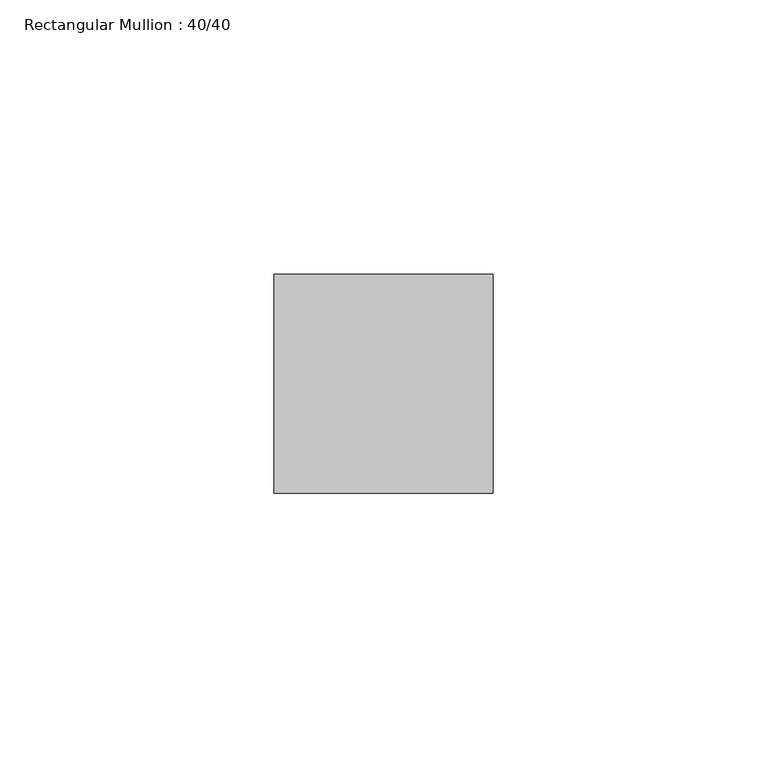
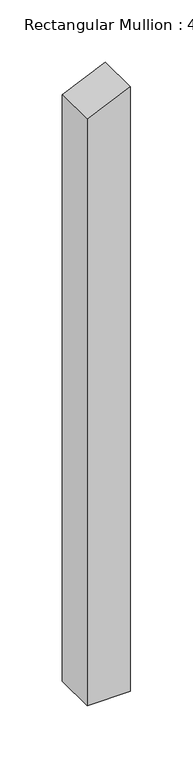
"""IFC4 building model written with IfcOpenShell, lengths in millimetres: member geometry, Rectangular Mullion : 40/40."""

import ifcopenshell
import ifcopenshell.guid

model = None  # the IFC model being written
_history = None  # IfcOwnerHistory: only IFC2X3 demands one
_inside = {}  # id of a spatial element -> (the spatial element, [elements in it])
_under = {}  # id of a project, library or spatial element -> (it, [spatial elements below it])
_declared = {}  # id of a project -> (the project, [libraries it declares])
_typed = {}  # id of a type object -> (the type object, [elements of that type])
_made_of = {}  # id of a material, layer set ... -> (it, [elements and type objects made of it])


def new_model(schema):
    """Start an empty IFC model of exactly this schema.

    Asked for "IFC4X3", IfcOpenShell would pick the latest addendum, in which some entities
    have other attributes; the version numbers below select the first issue.
    IFC2X3 requires an IfcOwnerHistory on every rooted entity: one is made here for all.
    """
    global model, _history
    if schema == "IFC4X3":
        model = ifcopenshell.file(schema_version=(4, 3, 0, 0))
    else:
        model = ifcopenshell.file(schema=schema)
    _inside.clear()
    _under.clear()
    _declared.clear()
    _typed.clear()
    _made_of.clear()
    _history = None
    if model.schema == "IFC2X3":
        org = make("IfcOrganization", Name="unknown")
        user = make(
            "IfcPersonAndOrganization",
            ThePerson=make("IfcPerson", FamilyName="unknown"),
            TheOrganization=org,
        )
        app = make(
            "IfcApplication",
            ApplicationDeveloper=org,
            Version="unknown",
            ApplicationFullName="unknown",
            ApplicationIdentifier="unknown",
        )
        _history = make(
            "IfcOwnerHistory",
            OwningUser=user,
            OwningApplication=app,
            ChangeAction="ADDED",
            CreationDate=0,
        )
    return model


def make(cls, **values):
    """One entity of the class cls with the attributes given. An attribute that is None is left unset."""
    return model.create_entity(
        cls, **{name: value for name, value in values.items() if value is not None}
    )


def rooted(cls, **values):
    """An entity with a GlobalId (a new one), such as an element, a storey or a relation."""
    return make(cls, GlobalId=ifcopenshell.guid.new(), OwnerHistory=_history, **values)


def si_unit(unit_type, name, prefix=None):
    """IfcSIUnit, for example si_unit("LENGTHUNIT", "METRE", prefix="MILLI")."""
    return make("IfcSIUnit", UnitType=unit_type, Prefix=prefix, Name=name)


def assignment(units):
    """IfcUnitAssignment: the units of a project."""
    return None if units is None else make("IfcUnitAssignment", Units=units)


def point(xyz):
    """IfcCartesianPoint."""
    return None if xyz is None else make("IfcCartesianPoint", Coordinates=xyz)


def direction(xyz):
    """IfcDirection."""
    return None if xyz is None else make("IfcDirection", DirectionRatios=xyz)


def frame(location, z_axis=None, x_axis=None):
    """IfcAxis2Placement3D, a coordinate frame: its origin and axes. An axis left out is left unset."""
    return make(
        "IfcAxis2Placement3D",
        Location=point(location),
        Axis=direction(z_axis),
        RefDirection=direction(x_axis),
    )


def origin():
    """The frame at (0, 0, 0) with its axes left unset."""
    return frame((0.0, 0.0, 0.0))


def place(relative_to, where):
    """IfcLocalPlacement: puts the frame where relative to a parent placement (None: the world)."""
    return make(
        "IfcLocalPlacement", PlacementRelTo=relative_to, RelativePlacement=where
    )


def context(
    kind, dimensions, precision=None, world=None, true_north=None, identifier=None
):
    """IfcGeometricRepresentationContext, for example the 3D "Model" context."""
    return make(
        "IfcGeometricRepresentationContext",
        ContextIdentifier=identifier,
        ContextType=kind,
        CoordinateSpaceDimension=dimensions,
        Precision=precision,
        WorldCoordinateSystem=world,
        TrueNorth=true_north,
    )


def project(units=None, contexts=None):
    """IfcProject with its units and contexts."""
    return rooted(
        "IfcProject",
        Name="project",
        RepresentationContexts=contexts,
        UnitsInContext=assignment(units),
    )


def spatial(cls, under=None, at=None, **own):
    """A site, building, storey or space (cls), placed at a placement, below another one or the project."""
    s = rooted(cls, ObjectPlacement=at, **own)
    if under is not None:
        _under.setdefault(under.id(), (under, []))[1].append(s)
    return s


def polyline(points):
    """IfcPolyline through the points."""
    return make("IfcPolyline", Points=[point(p) for p in points])


def outline(outer, holes=None, kind="AREA"):
    """IfcArbitraryClosedProfileDef: a profile drawn as a closed curve; with holes, ...WithVoids."""
    if holes is None:
        return make("IfcArbitraryClosedProfileDef", ProfileType=kind, OuterCurve=outer)
    return make(
        "IfcArbitraryProfileDefWithVoids",
        ProfileType=kind,
        OuterCurve=outer,
        InnerCurves=holes,
    )


def extrude(swept, where, along, depth):
    """IfcExtrudedAreaSolid: the profile swept, set in the frame where, extruded along a direction by depth."""
    return make(
        "IfcExtrudedAreaSolid",
        SweptArea=swept,
        Position=where,
        ExtrudedDirection=direction(along),
        Depth=depth,
    )


def shape(context_of_items, identifier, shape_type, items):
    """IfcShapeRepresentation: the items that make up one representation, for example the "Body"."""
    return make(
        "IfcShapeRepresentation",
        ContextOfItems=context_of_items,
        RepresentationIdentifier=identifier,
        RepresentationType=shape_type,
        Items=items,
    )


def source(mapping_origin, context_of_items, identifier, shape_type, items):
    """IfcRepresentationMap: a shape defined once, which mapped items show again and again."""
    return make(
        "IfcRepresentationMap",
        MappingOrigin=mapping_origin,
        MappedRepresentation=shape(context_of_items, identifier, shape_type, items),
    )


def transform(
    local_origin,
    x_axis=None,
    y_axis=None,
    z_axis=None,
    scale=None,
    scale2=None,
    scale3=None,
    uniform=True,
):
    """IfcCartesianTransformationOperator3D, or its non-uniform kind. x_axis, y_axis, z_axis: its Axis1, 2, 3."""
    if uniform:
        return make(
            "IfcCartesianTransformationOperator3D",
            Axis1=direction(x_axis),
            Axis2=direction(y_axis),
            LocalOrigin=point(local_origin),
            Scale=scale,
            Axis3=direction(z_axis),
        )
    return make(
        "IfcCartesianTransformationOperator3DnonUniform",
        Axis1=direction(x_axis),
        Axis2=direction(y_axis),
        LocalOrigin=point(local_origin),
        Scale=scale,
        Axis3=direction(z_axis),
        Scale2=scale2,
        Scale3=scale3,
    )


def mapped(mapping_source, mapping_target):
    """IfcMappedItem: shows the shape of a source again, moved by a transform."""
    return make(
        "IfcMappedItem", MappingSource=mapping_source, MappingTarget=mapping_target
    )


def made_of(thing, what):
    """Note that an element or type object is made of a material, layer set ...; save() writes the relation."""
    if what is not None:
        _made_of.setdefault(what.id(), (what, []))[1].append(thing)
    return thing


def element(
    cls,
    number,
    at=None,
    inside=None,
    cuts=None,
    type_object=None,
    material=None,
    context=None,
    identifier="Body",
    shape_type=None,
    held_by="IfcProductDefinitionShape",
    body=None,
    shapes=None,
    **own,
):
    """One element of the class cls, such as IfcWall. Its Tag is "e" and its number.

    at: its placement. inside: the storey or other place that contains it. cuts: it is an
    opening in that element (IfcRelVoidsElement). A single representation is given by context,
    identifier, shape_type and body (its items); several are given by shapes. held_by: the class
    of the entity that holds the representations. save() writes the other relations.
    """
    e = rooted(cls, Tag="e%d" % number, ObjectPlacement=at, **own)
    if body is not None:
        shapes = [shape(context, identifier, shape_type, body)]
    if shapes is not None:
        e.Representation = make(held_by, Representations=shapes)
    if inside is not None:
        _inside.setdefault(inside.id(), (inside, []))[1].append(e)
    if cuts is not None:
        rooted(
            "IfcRelVoidsElement", RelatingBuildingElement=cuts, RelatedOpeningElement=e
        )
    if type_object is not None:
        _typed.setdefault(type_object.id(), (type_object, []))[1].append(e)
    return made_of(e, material)


def aggregate(whole, parts):
    """IfcRelAggregates: a whole, such as a stair, and the parts it consists of."""
    return rooted("IfcRelAggregates", RelatingObject=whole, RelatedObjects=parts)


def save(model, path):
    """Write the relations noted so far, then the file.

    IfcRelAggregates (storeys below a building ...), IfcRelContainedInSpatialStructure (elements
    in a storey), IfcRelDefinesByType, IfcRelAssociatesMaterial and IfcRelDeclares: one each for
    every whole, place, type object, material and project.
    """
    for whole, parts in _under.values():
        aggregate(whole, parts)
    for where, things in _inside.values():
        rooted(
            "IfcRelContainedInSpatialStructure",
            RelatedElements=things,
            RelatingStructure=where,
        )
    for kind, things in _typed.values():
        rooted("IfcRelDefinesByType", RelatedObjects=things, RelatingType=kind)
    for what, things in _made_of.values():
        rooted("IfcRelAssociatesMaterial", RelatedObjects=things, RelatingMaterial=what)
    for by, libraries in _declared.values():
        rooted("IfcRelDeclares", RelatingContext=by, RelatedDefinitions=libraries)
    model.write(path)


def rectangular_mullion_40_40_e56146ee(model_context):
    return source(origin(), model_context, "Body", "SweptSolid", [
        extrude(outline(polyline([(0.0, 0.0), (-17.6335031, -40.0), (-592.613098, -40.0), (-592.613098, 0.0), (0.0, 0.0)])), frame((0.0, -20.0, 0.0), z_axis=(0.0, 1.0, 0.0), x_axis=(0.0, 0.0, 1.0)), (0.0, 0.0, 1.0), 40.0),
    ])


if __name__ == "__main__":
    model = new_model("IFC4")
    model_context = context("Model", 3, world=origin())
    ifc_project = project(units=[si_unit("LENGTHUNIT", "METRE", prefix="MILLI")], contexts=[model_context])
    site = spatial("IfcSite", under=ifc_project)
    building = spatial("IfcBuilding", under=site)
    placement = place(None, origin())
    rectangular_mullion_40_40_shape = rectangular_mullion_40_40_e56146ee(model_context)
    element("IfcMember", 1, ObjectType="Rectangular Mullion : 40/40", at=placement, inside=building, context=model_context, shape_type="MappedRepresentation", body=[
        mapped(rectangular_mullion_40_40_shape, transform((0.0, 0.0, 0.0), x_axis=(1.0, 0.0, 0.0), y_axis=(0.0, 1.0, 0.0), z_axis=(0.0, 0.0, 1.0))),
    ])
    save(model, "model.ifc")
